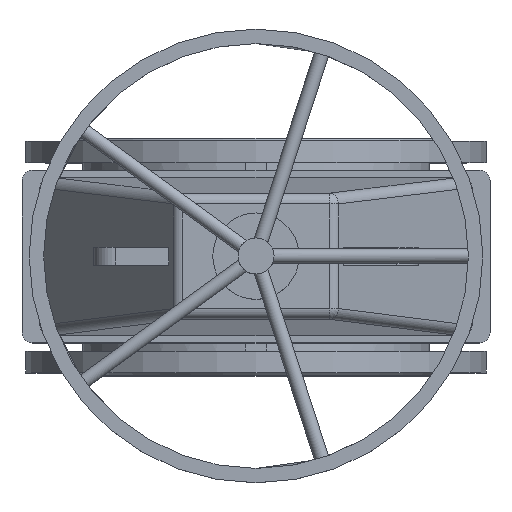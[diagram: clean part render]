
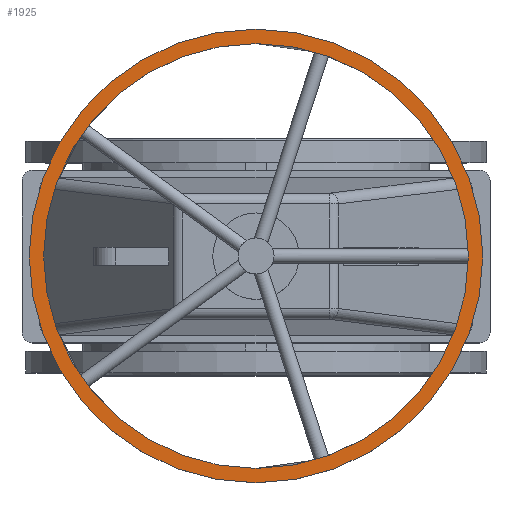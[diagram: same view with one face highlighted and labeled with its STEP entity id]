
A CAD part, top view. The second image highlights one B-rep face of the part: STEP entity #1925.
In plain terms, the highlighted planar face has unit normal (0, 0, 1).
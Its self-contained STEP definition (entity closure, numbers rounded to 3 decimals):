
#1925=ADVANCED_FACE('',(#4552,#4554),#4556,.T.);
#4552=FACE_BOUND('',#4553,.T.);
#4553=EDGE_LOOP('',(#5529));
#4554=FACE_BOUND('',#4555,.T.);
#4555=EDGE_LOOP('',(#5530));
#4556=PLANE('',#4557);
#4557=AXIS2_PLACEMENT_3D('',#4558,#4559,#4560);
#4558=CARTESIAN_POINT('',(0.,0.,946.5));
#4559=DIRECTION('',(0.,0.,1.));
#4560=DIRECTION('',(0.,-1.,0.));
#5529=ORIENTED_EDGE('',*,*,#6011,.T.);
#5530=ORIENTED_EDGE('',*,*,#6009,.T.);
#6009=EDGE_CURVE('',#6823,#6823,#6824,.F.);
#6011=EDGE_CURVE('',#6827,#6827,#6828,.T.);
#6823=VERTEX_POINT('',#10305);
#6824=CIRCLE('',#10306,295.);
#6827=VERTEX_POINT('',#10315);
#6828=CIRCLE('',#10316,315.);
#10305=CARTESIAN_POINT('',(0.,-295.,946.5));
#10306=AXIS2_PLACEMENT_3D('',#10307,#10308,#10309);
#10307=CARTESIAN_POINT('',(0.,0.,946.5));
#10308=DIRECTION('',(0.,0.,1.));
#10309=DIRECTION('',(0.,-1.,0.));
#10315=CARTESIAN_POINT('',(0.,-315.,946.5));
#10316=AXIS2_PLACEMENT_3D('',#10317,#10318,#10319);
#10317=CARTESIAN_POINT('',(0.,0.,946.5));
#10318=DIRECTION('',(0.,0.,1.));
#10319=DIRECTION('',(0.,-1.,0.));
